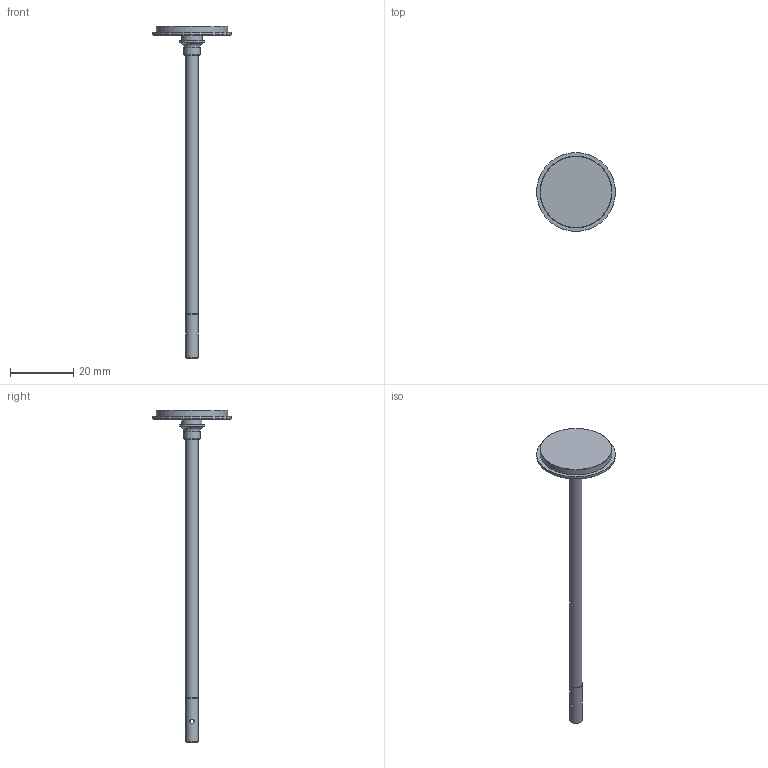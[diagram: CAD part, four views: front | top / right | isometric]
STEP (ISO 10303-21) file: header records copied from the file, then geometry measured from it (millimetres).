
FILE_DESCRIPTION(/* description */ (''),/* implementation_level */ '2;1');
FILE_NAME(/* name */ 'LA-2237-0190#-D.stp',/* time_stamp */ '2012-09-07T08:30:24+01:00',/* author */ (''),/* organization */ (''),/* preprocessor_version */ 'ST-DEVELOPER v11',/* originating_system */ 'SIEMENS PLM Software NX 7.5',/* authorisation */ '');
FILE_SCHEMA (('AUTOMOTIVE_DESIGN { 1 0 10303 214 1 1 1 1 }'));
Length unit declared in the file: millimetre
Products named in the file (1): rt13371Ayusm
Bounding box: 25 x 25 x 105.15 mm (x, y, z)
Volume: 2446.9 mm3; surface area: 2590.3 mm2
Topology: 1 solids, 1 shells, 41 faces, 153 edges, 125 vertices
Faces by surface type: plane 16, cylinder 12, cone 11, torus 2
Full cylindrical faces by diameter (mm): 1.31 x1, 2.594 x1, 3.975 x1, 4 x1, 5.3 x1, 6.6 x1, 22.7 x1, 25 x1
Entity records: 2073 total; most frequent: CARTESIAN_POINT 594, ORIENTED_EDGE 250, DIRECTION 192, EDGE_CURVE 125, VERTEX_POINT 119, AXIS2_PLACEMENT_3D 77, EDGE_LOOP 75, FACE_BOUND 62
